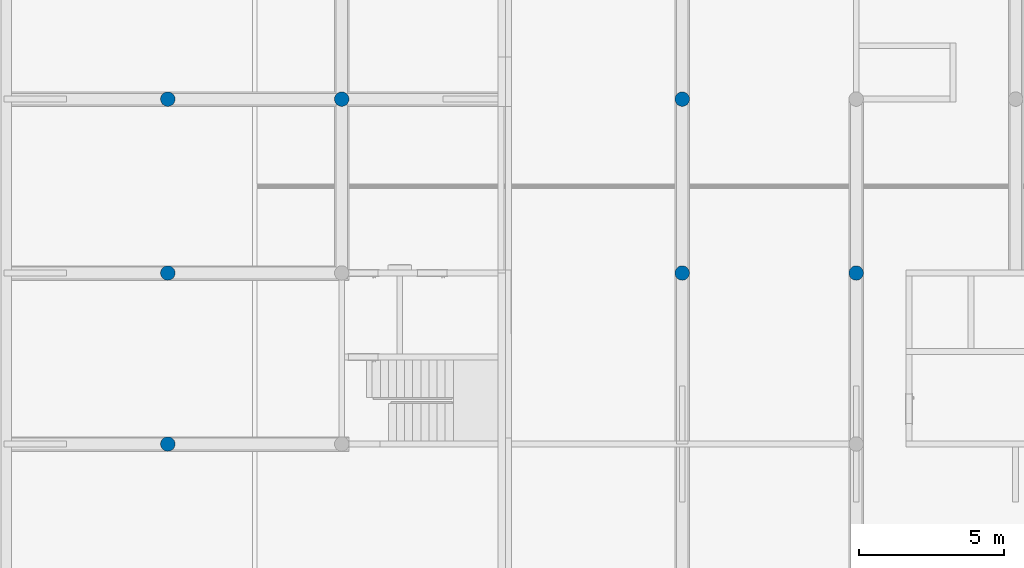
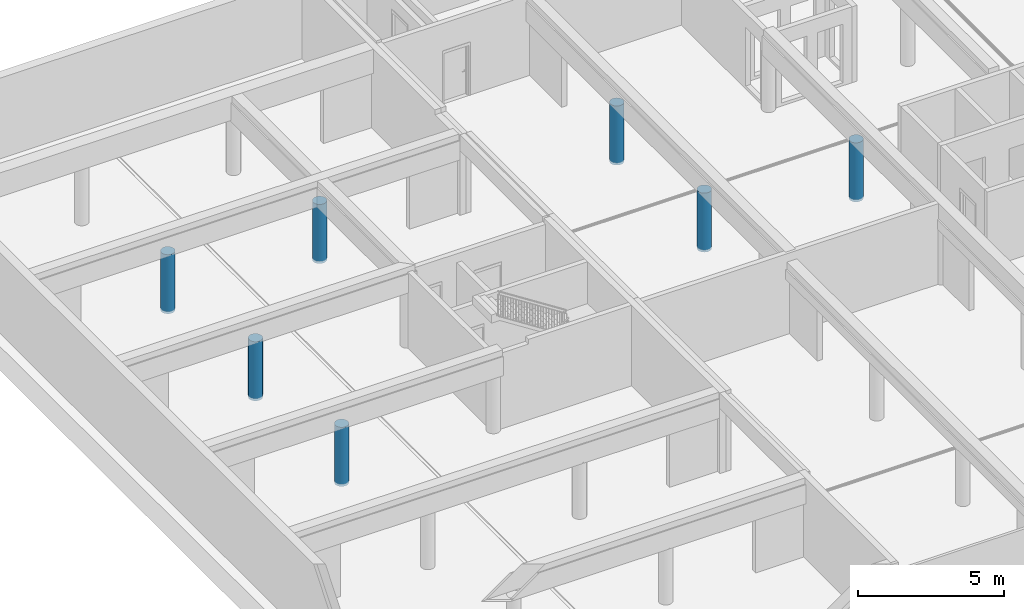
# One storey, part 2 of 25: 7 columns.
"""IFC2X3 building model written with IfcOpenShell, lengths in millimetres."""

from ifc_helpers import new_model, entity, si_unit, converted_unit, derived_unit, money_unit, direction, frame, origin_with_axes, place, context, subcontext, project, spatial, faceted_brep, material, type_object, element, save


model = new_model("IFC2X3")

# Units and contexts
model_context = context("Model", 3, precision=0.01, world=origin_with_axes(), true_north=direction((0.34421633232, 0.938890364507)))
body_context = subcontext(model_context, "Body", "Model", "MODEL_VIEW")
ifc_project = project(units=[si_unit("LENGTHUNIT", "METRE", prefix="MILLI"), si_unit("AREAUNIT", "SQUARE_METRE"), si_unit("VOLUMEUNIT", "CUBIC_METRE"), converted_unit("PLANEANGLEUNIT", "DEGREE", entity("IfcPlaneAngleMeasure", 0.0174532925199), si_unit("PLANEANGLEUNIT", "RADIAN"), dimensions=[0, 0, 0, 0, 0, 0, 0]), si_unit("SOLIDANGLEUNIT", "STERADIAN"), money_unit("USD"), converted_unit("TIMEUNIT", "Year", entity("IfcTimeMeasure", 31556926.0), si_unit("TIMEUNIT", "SECOND"), dimensions=[0, 0, 1, 0, 0, 0, 0]), si_unit("MASSUNIT", "GRAM", prefix="KILO"), si_unit("THERMODYNAMICTEMPERATUREUNIT", "DEGREE_CELSIUS"), si_unit("LUMINOUSINTENSITYUNIT", "LUMEN"), si_unit("ENERGYUNIT", "JOULE", prefix="MEGA"), derived_unit("THERMALCONDUCTANCEUNIT", [(si_unit("POWERUNIT", "WATT"), 1), (si_unit("LENGTHUNIT", "METRE"), -1), (si_unit("THERMODYNAMICTEMPERATUREUNIT", "KELVIN"), -1)]), derived_unit("SPECIFICHEATCAPACITYUNIT", [(si_unit("ENERGYUNIT", "JOULE"), 1), (si_unit("MASSUNIT", "GRAM", prefix="KILO"), -1), (si_unit("THERMODYNAMICTEMPERATUREUNIT", "KELVIN"), -1)]), derived_unit("MASSDENSITYUNIT", [(si_unit("MASSUNIT", "GRAM", prefix="KILO"), 1), (si_unit("VOLUMEUNIT", "CUBIC_METRE"), -1)])], contexts=[model_context])

# Site, building, storey
site_placement = place(None, origin_with_axes())
site = spatial("IfcSite", under=ifc_project, at=site_placement, Name="USTRONIE MORSKIE", CompositionType="ELEMENT")
building_placement = place(site_placement, origin_with_axes())
building = spatial("IfcBuilding", under=site, at=building_placement, Name="Budynek", CompositionType="ELEMENT")
storey_placement = place(building_placement, frame((0.0, 0.0, -3600.0), z_axis=(0.0, 0.0, 1.0), x_axis=(1.0, 0.0, 0.0)))
storey = spatial("IfcBuildingStorey", under=building, at=storey_placement, Name="GARAZ", CompositionType="ELEMENT", Elevation=-3600.0)

# Columns
ifc_material = material(Name="Beton konstrukcyjny 01")
column_type = type_object("IfcColumnType", Name="Beton konstrukcyjny 01 D500", PredefinedType="NOTDEFINED")
column_1_placement = place(storey_placement, frame((373317.920919, 738801.199036, -100.0), z_axis=(0.0, 0.0, 1.0), x_axis=(1.0, 0.0, 0.0)))
element("IfcColumn", 1, at=column_1_placement, inside=storey, type_object=column_type, material=ifc_material, Name="S2", context=body_context, shape_type="Brep", body=[
    faceted_brep([(-250.0, 0.0, 2470.00030619), (-250.0, 0.0, 0.0), (-246.201938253, -43.4120444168, 0.0), (-246.201938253, -43.4120444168, 2470.00030619), (-246.201938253, 43.4120444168, 2470.00030619), (-246.201938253, 43.4120444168, 0.0), (-234.923155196, 85.5050358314, 0.0), (-216.506350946, 125.0, 0.0), (-191.51111078, 160.696902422, 0.0), (-160.696902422, 191.51111078, 0.0), (-125.0, 216.506350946, 0.0), (-85.5050358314, 234.923155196, 0.0), (-43.4120444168, 246.201938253, 0.0), (0.0, 250.0, 0.0), (43.4120444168, 246.201938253, 0.0), (85.5050358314, 234.923155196, 0.0), (125.0, 216.506350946, 0.0), (160.696902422, 191.51111078, 0.0), (191.51111078, 160.696902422, 0.0), (216.506350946, 125.0, 0.0), (234.923155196, 85.5050358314, 0.0), (246.201938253, 43.4120444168, 0.0), (250.0, 0.0, 0.0), (246.201938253, -43.4120444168, 0.0), (234.923155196, -85.5050358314, 0.0), (216.506350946, -125.0, 0.0), (191.51111078, -160.696902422, 0.0), (160.696902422, -191.51111078, 0.0), (125.0, -216.506350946, 0.0), (85.5050358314, -234.923155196, 0.0), (43.4120444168, -246.201938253, 0.0), (0.0, -250.0, 0.0), (-43.4120444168, -246.201938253, 0.0), (-85.5050358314, -234.923155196, 0.0), (-125.0, -216.506350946, 0.0), (-160.696902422, -191.51111078, 0.0), (-191.51111078, -160.696902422, 0.0), (-216.506350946, -125.0, 0.0), (-234.923155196, -85.5050358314, 0.0), (-234.923155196, -85.5050358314, 2470.00030619), (-216.506350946, -125.0, 2470.00030619), (-191.51111078, -160.696902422, 2470.00030619), (-160.696902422, -191.51111078, 2470.00030619), (-125.0, -216.506350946, 2470.00030619), (-85.5050358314, -234.923155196, 2470.00030619), (-43.4120444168, -246.201938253, 2470.00030619), (0.0, -250.0, 2470.00030619), (43.4120444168, -246.201938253, 2470.00030619), (85.5050358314, -234.923155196, 2470.00030619), (125.0, -216.506350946, 2470.00030619), (160.696902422, -191.51111078, 2470.00030619), (191.51111078, -160.696902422, 2470.00030619), (216.506350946, -125.0, 2470.00030619), (234.923155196, -85.5050358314, 2470.00030619), (246.201938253, -43.4120444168, 2470.00030619), (250.0, 0.0, 2470.00030619), (246.201938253, 43.4120444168, 2470.00030619), (234.923155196, 85.5050358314, 2470.00030619), (216.506350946, 125.0, 2470.00030619), (191.51111078, 160.696902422, 2470.00030619), (160.696902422, 191.51111078, 2470.00030619), (125.0, 216.506350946, 2470.00030619), (85.5050358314, 234.923155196, 2470.00030619), (43.4120444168, 246.201938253, 2470.00030619), (0.0, 250.0, 2470.00030619), (-43.4120444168, 246.201938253, 2470.00030619), (-85.5050358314, 234.923155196, 2470.00030619), (-125.0, 216.506350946, 2470.00030619), (-160.696902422, 191.51111078, 2470.00030619), (-191.51111078, 160.696902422, 2470.00030619), (-216.506350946, 125.0, 2470.00030619), (-234.923155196, 85.5050358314, 2470.00030619)], [[[0, 1, 2, 3]], [[4, 5, 1, 0]], [[2, 1, 5, 6, 7, 8, 9, 10, 11, 12, 13, 14, 15, 16, 17, 18, 19, 20, 21, 22, 23, 24, 25, 26, 27, 28, 29, 30, 31, 32, 33, 34, 35, 36, 37, 38]], [[3, 2, 38, 39]], [[4, 0, 3, 39, 40, 41, 42, 43, 44, 45, 46, 47, 48, 49, 50, 51, 52, 53, 54, 55, 56, 57, 58, 59, 60, 61, 62, 63, 64, 65, 66, 67, 68, 69, 70, 71]], [[71, 6, 5, 4]], [[70, 7, 6, 71]], [[69, 8, 7, 70]], [[68, 9, 8, 69]], [[67, 10, 9, 68]], [[66, 11, 10, 67]], [[65, 12, 11, 66]], [[64, 13, 12, 65]], [[63, 14, 13, 64]], [[62, 15, 14, 63]], [[61, 16, 15, 62]], [[60, 17, 16, 61]], [[59, 18, 17, 60]], [[58, 19, 18, 59]], [[57, 20, 19, 58]], [[56, 21, 20, 57]], [[55, 22, 21, 56]], [[54, 23, 22, 55]], [[53, 24, 23, 54]], [[52, 25, 24, 53]], [[51, 26, 25, 52]], [[50, 27, 26, 51]], [[49, 28, 27, 50]], [[48, 29, 28, 49]], [[47, 30, 29, 48]], [[46, 31, 30, 47]], [[45, 32, 31, 46]], [[44, 33, 32, 45]], [[43, 34, 33, 44]], [[42, 35, 34, 43]], [[41, 36, 35, 42]], [[40, 37, 36, 41]], [[39, 38, 37, 40]]]),
])
column_2_placement = place(storey_placement, frame((373315.020243, 732801.199036, -100.0), z_axis=(0.0, 0.0, 1.0), x_axis=(0.0, 1.0, 0.0)))
element("IfcColumn", 2, at=column_2_placement, inside=storey, type_object=column_type, material=ifc_material, Name="S1", context=body_context, shape_type="Brep", body=[
    faceted_brep([(-250.0, 0.0, 2470.00030619), (-250.0, 0.0, 0.0), (-246.201938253, -43.4120444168, 0.0), (-246.201938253, -43.4120444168, 2470.00030619), (-246.201938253, 43.4120444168, 2470.00030619), (-246.201938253, 43.4120444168, 0.0), (-234.923155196, 85.5050358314, 0.0), (-216.506350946, 125.0, 0.0), (-191.51111078, 160.696902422, 0.0), (-160.696902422, 191.51111078, 0.0), (-125.0, 216.506350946, 0.0), (-85.5050358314, 234.923155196, 0.0), (-43.4120444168, 246.201938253, 0.0), (0.0, 250.0, 0.0), (43.4120444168, 246.201938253, 0.0), (85.5050358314, 234.923155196, 0.0), (125.0, 216.506350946, 0.0), (160.696902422, 191.51111078, 0.0), (191.51111078, 160.696902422, 0.0), (216.506350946, 125.0, 0.0), (234.923155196, 85.5050358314, 0.0), (246.201938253, 43.4120444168, 0.0), (250.0, 0.0, 0.0), (246.201938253, -43.4120444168, 0.0), (234.923155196, -85.5050358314, 0.0), (216.506350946, -125.0, 0.0), (191.51111078, -160.696902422, 0.0), (160.696902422, -191.51111078, 0.0), (125.0, -216.506350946, 0.0), (85.5050358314, -234.923155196, 0.0), (43.4120444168, -246.201938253, 0.0), (0.0, -250.0, 0.0), (-43.4120444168, -246.201938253, 0.0), (-85.5050358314, -234.923155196, 0.0), (-125.0, -216.506350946, 0.0), (-160.696902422, -191.51111078, 0.0), (-191.51111078, -160.696902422, 0.0), (-216.506350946, -125.0, 0.0), (-234.923155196, -85.5050358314, 0.0), (-234.923155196, -85.5050358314, 2470.00030619), (-216.506350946, -125.0, 2470.00030619), (-191.51111078, -160.696902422, 2470.00030619), (-160.696902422, -191.51111078, 2470.00030619), (-125.0, -216.506350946, 2470.00030619), (-85.5050358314, -234.923155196, 2470.00030619), (-43.4120444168, -246.201938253, 2470.00030619), (0.0, -250.0, 2470.00030619), (43.4120444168, -246.201938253, 2470.00030619), (85.5050358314, -234.923155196, 2470.00030619), (125.0, -216.506350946, 2470.00030619), (160.696902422, -191.51111078, 2470.00030619), (191.51111078, -160.696902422, 2470.00030619), (216.506350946, -125.0, 2470.00030619), (234.923155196, -85.5050358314, 2470.00030619), (246.201938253, -43.4120444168, 2470.00030619), (250.0, 0.0, 2470.00030619), (246.201938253, 43.4120444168, 2470.00030619), (234.923155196, 85.5050358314, 2470.00030619), (216.506350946, 125.0, 2470.00030619), (191.51111078, 160.696902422, 2470.00030619), (160.696902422, 191.51111078, 2470.00030619), (125.0, 216.506350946, 2470.00030619), (85.5050358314, 234.923155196, 2470.00030619), (43.4120444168, 246.201938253, 2470.00030619), (0.0, 250.0, 2470.00030619), (-43.4120444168, 246.201938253, 2470.00030619), (-85.5050358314, 234.923155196, 2470.00030619), (-125.0, 216.506350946, 2470.00030619), (-160.696902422, 191.51111078, 2470.00030619), (-191.51111078, 160.696902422, 2470.00030619), (-216.506350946, 125.0, 2470.00030619), (-234.923155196, 85.5050358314, 2470.00030619)], [[[0, 1, 2, 3]], [[4, 5, 1, 0]], [[2, 1, 5, 6, 7, 8, 9, 10, 11, 12, 13, 14, 15, 16, 17, 18, 19, 20, 21, 22, 23, 24, 25, 26, 27, 28, 29, 30, 31, 32, 33, 34, 35, 36, 37, 38]], [[3, 2, 38, 39]], [[4, 0, 3, 39, 40, 41, 42, 43, 44, 45, 46, 47, 48, 49, 50, 51, 52, 53, 54, 55, 56, 57, 58, 59, 60, 61, 62, 63, 64, 65, 66, 67, 68, 69, 70, 71]], [[71, 6, 5, 4]], [[70, 7, 6, 71]], [[69, 8, 7, 70]], [[68, 9, 8, 69]], [[67, 10, 9, 68]], [[66, 11, 10, 67]], [[65, 12, 11, 66]], [[64, 13, 12, 65]], [[63, 14, 13, 64]], [[62, 15, 14, 63]], [[61, 16, 15, 62]], [[60, 17, 16, 61]], [[59, 18, 17, 60]], [[58, 19, 18, 59]], [[57, 20, 19, 58]], [[56, 21, 20, 57]], [[55, 22, 21, 56]], [[54, 23, 22, 55]], [[53, 24, 23, 54]], [[52, 25, 24, 53]], [[51, 26, 25, 52]], [[50, 27, 26, 51]], [[49, 28, 27, 50]], [[48, 29, 28, 49]], [[47, 30, 29, 48]], [[46, 31, 30, 47]], [[45, 32, 31, 46]], [[44, 33, 32, 45]], [[43, 34, 33, 44]], [[42, 35, 34, 43]], [[41, 36, 35, 42]], [[40, 37, 36, 41]], [[39, 38, 37, 40]]]),
])
column_3_placement = place(storey_placement, frame((355567.920919, 738801.199036, -100.0), z_axis=(0.0, 0.0, 1.0), x_axis=(1.0, 0.0, 0.0)))
element("IfcColumn", 3, at=column_3_placement, inside=storey, type_object=column_type, material=ifc_material, Name="S1", context=body_context, shape_type="Brep", body=[
    faceted_brep([(-250.0, 0.0, 2470.00030619), (-250.0, 0.0, 0.0), (-246.201938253, -43.4120444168, 0.0), (-246.201938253, -43.4120444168, 2470.00030619), (-246.201938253, 43.4120444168, 2470.00030619), (-246.201938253, 43.4120444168, 0.0), (-234.923155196, 85.5050358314, 0.0), (-216.506350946, 125.0, 0.0), (-191.51111078, 160.696902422, 0.0), (-160.696902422, 191.51111078, 0.0), (-125.0, 216.506350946, 0.0), (-85.5050358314, 234.923155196, 0.0), (-43.4120444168, 246.201938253, 0.0), (0.0, 250.0, 0.0), (43.4120444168, 246.201938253, 0.0), (85.5050358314, 234.923155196, 0.0), (125.0, 216.506350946, 0.0), (160.696902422, 191.51111078, 0.0), (191.51111078, 160.696902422, 0.0), (216.506350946, 125.0, 0.0), (234.923155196, 85.5050358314, 0.0), (246.201938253, 43.4120444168, 0.0), (250.0, 0.0, 0.0), (246.201938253, -43.4120444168, 0.0), (234.923155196, -85.5050358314, 0.0), (216.506350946, -125.0, 0.0), (191.51111078, -160.696902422, 0.0), (160.696902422, -191.51111078, 0.0), (125.0, -216.506350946, 0.0), (85.5050358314, -234.923155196, 0.0), (43.4120444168, -246.201938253, 0.0), (0.0, -250.0, 0.0), (-43.4120444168, -246.201938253, 0.0), (-85.5050358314, -234.923155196, 0.0), (-125.0, -216.506350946, 0.0), (-160.696902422, -191.51111078, 0.0), (-191.51111078, -160.696902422, 0.0), (-216.506350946, -125.0, 0.0), (-234.923155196, -85.5050358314, 0.0), (-234.923155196, -85.5050358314, 2470.00030619), (-216.506350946, -125.0, 2470.00030619), (-191.51111078, -160.696902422, 2470.00030619), (-160.696902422, -191.51111078, 2470.00030619), (-125.0, -216.506350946, 2470.00030619), (-85.5050358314, -234.923155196, 2470.00030619), (-43.4120444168, -246.201938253, 2470.00030619), (0.0, -250.0, 2470.00030619), (43.4120444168, -246.201938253, 2470.00030619), (85.5050358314, -234.923155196, 2470.00030619), (125.0, -216.506350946, 2470.00030619), (160.696902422, -191.51111078, 2470.00030619), (191.51111078, -160.696902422, 2470.00030619), (216.506350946, -125.0, 2470.00030619), (234.923155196, -85.5050358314, 2470.00030619), (246.201938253, -43.4120444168, 2470.00030619), (250.0, 0.0, 2470.00030619), (246.201938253, 43.4120444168, 2470.00030619), (234.923155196, 85.5050358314, 2470.00030619), (216.506350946, 125.0, 2470.00030619), (191.51111078, 160.696902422, 2470.00030619), (160.696902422, 191.51111078, 2470.00030619), (125.0, 216.506350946, 2470.00030619), (85.5050358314, 234.923155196, 2470.00030619), (43.4120444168, 246.201938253, 2470.00030619), (0.0, 250.0, 2470.00030619), (-43.4120444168, 246.201938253, 2470.00030619), (-85.5050358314, 234.923155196, 2470.00030619), (-125.0, 216.506350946, 2470.00030619), (-160.696902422, 191.51111078, 2470.00030619), (-191.51111078, 160.696902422, 2470.00030619), (-216.506350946, 125.0, 2470.00030619), (-234.923155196, 85.5050358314, 2470.00030619)], [[[0, 1, 2, 3]], [[4, 5, 1, 0]], [[2, 1, 5, 6, 7, 8, 9, 10, 11, 12, 13, 14, 15, 16, 17, 18, 19, 20, 21, 22, 23, 24, 25, 26, 27, 28, 29, 30, 31, 32, 33, 34, 35, 36, 37, 38]], [[3, 2, 38, 39]], [[4, 0, 3, 39, 40, 41, 42, 43, 44, 45, 46, 47, 48, 49, 50, 51, 52, 53, 54, 55, 56, 57, 58, 59, 60, 61, 62, 63, 64, 65, 66, 67, 68, 69, 70, 71]], [[71, 6, 5, 4]], [[70, 7, 6, 71]], [[69, 8, 7, 70]], [[68, 9, 8, 69]], [[67, 10, 9, 68]], [[66, 11, 10, 67]], [[65, 12, 11, 66]], [[64, 13, 12, 65]], [[63, 14, 13, 64]], [[62, 15, 14, 63]], [[61, 16, 15, 62]], [[60, 17, 16, 61]], [[59, 18, 17, 60]], [[58, 19, 18, 59]], [[57, 20, 19, 58]], [[56, 21, 20, 57]], [[55, 22, 21, 56]], [[54, 23, 22, 55]], [[53, 24, 23, 54]], [[52, 25, 24, 53]], [[51, 26, 25, 52]], [[50, 27, 26, 51]], [[49, 28, 27, 50]], [[48, 29, 28, 49]], [[47, 30, 29, 48]], [[46, 31, 30, 47]], [[45, 32, 31, 46]], [[44, 33, 32, 45]], [[43, 34, 33, 44]], [[42, 35, 34, 43]], [[41, 36, 35, 42]], [[40, 37, 36, 41]], [[39, 38, 37, 40]]]),
])
column_4_placement = place(storey_placement, frame((361567.920919, 738801.199036, -100.0), z_axis=(0.0, 0.0, 1.0), x_axis=(1.0, 0.0, 0.0)))
element("IfcColumn", 4, at=column_4_placement, inside=storey, type_object=column_type, material=ifc_material, Name="S1", context=body_context, shape_type="Brep", body=[
    faceted_brep([(246.201938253, 43.4120444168, 2470.00030619), (246.201938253, 43.4120444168, 0.0), (234.923155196, 85.5050358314, 0.0), (234.923155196, 85.5050358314, 2470.00030619), (250.0, 0.0, 2470.00030619), (250.0, 0.0, 0.0), (246.201938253, -43.4120444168, 0.0), (234.923155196, -85.5050358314, 0.0), (216.506350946, -125.0, 0.0), (191.51111078, -160.696902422, 0.0), (160.696902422, -191.51111078, 0.0), (125.0, -216.506350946, 0.0), (85.5050358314, -234.923155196, 0.0), (43.4120444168, -246.201938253, 0.0), (0.0, -250.0, 0.0), (-43.4120444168, -246.201938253, 0.0), (-85.5050358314, -234.923155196, 0.0), (-125.0, -216.506350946, 0.0), (-160.696902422, -191.51111078, 0.0), (-191.51111078, -160.696902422, 0.0), (-216.506350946, -125.0, 0.0), (-234.923155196, -85.5050358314, 0.0), (-246.201938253, -43.4120444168, 0.0), (-250.0, 0.0, 0.0), (-246.201938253, 43.4120444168, 0.0), (-234.923155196, 85.5050358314, 0.0), (-216.506350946, 125.0, 0.0), (-191.51111078, 160.696902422, 0.0), (-160.696902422, 191.51111078, 0.0), (-125.0, 216.506350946, 0.0), (-85.5050358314, 234.923155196, 0.0), (-43.4120444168, 246.201938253, 0.0), (0.0, 250.0, 0.0), (43.4120444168, 246.201938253, 0.0), (85.5050358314, 234.923155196, 0.0), (125.0, 216.506350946, 0.0), (160.696902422, 191.51111078, 0.0), (191.51111078, 160.696902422, 0.0), (216.506350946, 125.0, 0.0), (216.506350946, 125.0, 2470.00030619), (191.51111078, 160.696902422, 2470.00030619), (160.696902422, 191.51111078, 2470.00030619), (125.0, 216.506350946, 2470.00030619), (85.5050358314, 234.923155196, 2470.00030619), (43.4120444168, 246.201938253, 2470.00030619), (0.0, 250.0, 2470.00030619), (-43.4120444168, 246.201938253, 2470.00030619), (-85.5050358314, 234.923155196, 2470.00030619), (-125.0, 216.506350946, 2470.00030619), (-160.696902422, 191.51111078, 2470.00030619), (-191.51111078, 160.696902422, 2470.00030619), (-216.506350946, 125.0, 2470.00030619), (-234.923155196, 85.5050358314, 2470.00030619), (-246.201938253, 43.4120444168, 2470.00030619), (-250.0, 0.0, 2470.00030619), (-246.201938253, -43.4120444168, 2470.00030619), (-234.923155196, -85.5050358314, 2470.00030619), (-216.506350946, -125.0, 2470.00030619), (-191.51111078, -160.696902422, 2470.00030619), (-160.696902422, -191.51111078, 2470.00030619), (-125.0, -216.506350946, 2470.00030619), (-85.5050358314, -234.923155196, 2470.00030619), (-43.4120444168, -246.201938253, 2470.00030619), (0.0, -250.0, 2470.00030619), (43.4120444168, -246.201938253, 2470.00030619), (85.5050358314, -234.923155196, 2470.00030619), (125.0, -216.506350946, 2470.00030619), (160.696902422, -191.51111078, 2470.00030619), (191.51111078, -160.696902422, 2470.00030619), (216.506350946, -125.0, 2470.00030619), (234.923155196, -85.5050358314, 2470.00030619), (246.201938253, -43.4120444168, 2470.00030619)], [[[0, 1, 2, 3]], [[4, 5, 1, 0]], [[2, 1, 5, 6, 7, 8, 9, 10, 11, 12, 13, 14, 15, 16, 17, 18, 19, 20, 21, 22, 23, 24, 25, 26, 27, 28, 29, 30, 31, 32, 33, 34, 35, 36, 37, 38]], [[3, 2, 38, 39]], [[4, 0, 3, 39, 40, 41, 42, 43, 44, 45, 46, 47, 48, 49, 50, 51, 52, 53, 54, 55, 56, 57, 58, 59, 60, 61, 62, 63, 64, 65, 66, 67, 68, 69, 70, 71]], [[71, 6, 5, 4]], [[70, 7, 6, 71]], [[69, 8, 7, 70]], [[68, 9, 8, 69]], [[67, 10, 9, 68]], [[66, 11, 10, 67]], [[65, 12, 11, 66]], [[64, 13, 12, 65]], [[63, 14, 13, 64]], [[62, 15, 14, 63]], [[61, 16, 15, 62]], [[60, 17, 16, 61]], [[59, 18, 17, 60]], [[58, 19, 18, 59]], [[57, 20, 19, 58]], [[56, 21, 20, 57]], [[55, 22, 21, 56]], [[54, 23, 22, 55]], [[53, 24, 23, 54]], [[52, 25, 24, 53]], [[51, 26, 25, 52]], [[50, 27, 26, 51]], [[49, 28, 27, 50]], [[48, 29, 28, 49]], [[47, 30, 29, 48]], [[46, 31, 30, 47]], [[45, 32, 31, 46]], [[44, 33, 32, 45]], [[43, 34, 33, 44]], [[42, 35, 34, 43]], [[41, 36, 35, 42]], [[40, 37, 36, 41]], [[39, 38, 37, 40]]]),
])
column_5_placement = place(storey_placement, frame((355567.920919, 732801.199036, -100.0), z_axis=(0.0, 0.0, 1.0), x_axis=(1.0, 0.0, 0.0)))
element("IfcColumn", 5, at=column_5_placement, inside=storey, type_object=column_type, material=ifc_material, Name="S1", context=body_context, shape_type="Brep", body=[
    faceted_brep([(-250.0, 0.0, 2470.00030619), (-250.0, 0.0, 0.0), (-246.201938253, -43.4120444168, 0.0), (-246.201938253, -43.4120444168, 2470.00030619), (-246.201938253, 43.4120444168, 2470.00030619), (-246.201938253, 43.4120444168, 0.0), (-234.923155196, 85.5050358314, 0.0), (-216.506350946, 125.0, 0.0), (-191.51111078, 160.696902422, 0.0), (-160.696902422, 191.51111078, 0.0), (-125.0, 216.506350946, 0.0), (-85.5050358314, 234.923155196, 0.0), (-43.4120444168, 246.201938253, 0.0), (0.0, 250.0, 0.0), (43.4120444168, 246.201938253, 0.0), (85.5050358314, 234.923155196, 0.0), (125.0, 216.506350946, 0.0), (160.696902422, 191.51111078, 0.0), (191.51111078, 160.696902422, 0.0), (216.506350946, 125.0, 0.0), (234.923155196, 85.5050358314, 0.0), (246.201938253, 43.4120444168, 0.0), (250.0, 0.0, 0.0), (246.201938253, -43.4120444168, 0.0), (234.923155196, -85.5050358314, 0.0), (216.506350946, -125.0, 0.0), (191.51111078, -160.696902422, 0.0), (160.696902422, -191.51111078, 0.0), (125.0, -216.506350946, 0.0), (85.5050358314, -234.923155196, 0.0), (43.4120444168, -246.201938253, 0.0), (0.0, -250.0, 0.0), (-43.4120444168, -246.201938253, 0.0), (-85.5050358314, -234.923155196, 0.0), (-125.0, -216.506350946, 0.0), (-160.696902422, -191.51111078, 0.0), (-191.51111078, -160.696902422, 0.0), (-216.506350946, -125.0, 0.0), (-234.923155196, -85.5050358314, 0.0), (-234.923155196, -85.5050358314, 2470.00030619), (-216.506350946, -125.0, 2470.00030619), (-191.51111078, -160.696902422, 2470.00030619), (-160.696902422, -191.51111078, 2470.00030619), (-125.0, -216.506350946, 2470.00030619), (-85.5050358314, -234.923155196, 2470.00030619), (-43.4120444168, -246.201938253, 2470.00030619), (0.0, -250.0, 2470.00030619), (43.4120444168, -246.201938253, 2470.00030619), (85.5050358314, -234.923155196, 2470.00030619), (125.0, -216.506350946, 2470.00030619), (160.696902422, -191.51111078, 2470.00030619), (191.51111078, -160.696902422, 2470.00030619), (216.506350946, -125.0, 2470.00030619), (234.923155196, -85.5050358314, 2470.00030619), (246.201938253, -43.4120444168, 2470.00030619), (250.0, 0.0, 2470.00030619), (246.201938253, 43.4120444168, 2470.00030619), (234.923155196, 85.5050358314, 2470.00030619), (216.506350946, 125.0, 2470.00030619), (191.51111078, 160.696902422, 2470.00030619), (160.696902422, 191.51111078, 2470.00030619), (125.0, 216.506350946, 2470.00030619), (85.5050358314, 234.923155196, 2470.00030619), (43.4120444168, 246.201938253, 2470.00030619), (0.0, 250.0, 2470.00030619), (-43.4120444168, 246.201938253, 2470.00030619), (-85.5050358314, 234.923155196, 2470.00030619), (-125.0, 216.506350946, 2470.00030619), (-160.696902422, 191.51111078, 2470.00030619), (-191.51111078, 160.696902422, 2470.00030619), (-216.506350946, 125.0, 2470.00030619), (-234.923155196, 85.5050358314, 2470.00030619)], [[[0, 1, 2, 3]], [[4, 5, 1, 0]], [[2, 1, 5, 6, 7, 8, 9, 10, 11, 12, 13, 14, 15, 16, 17, 18, 19, 20, 21, 22, 23, 24, 25, 26, 27, 28, 29, 30, 31, 32, 33, 34, 35, 36, 37, 38]], [[3, 2, 38, 39]], [[4, 0, 3, 39, 40, 41, 42, 43, 44, 45, 46, 47, 48, 49, 50, 51, 52, 53, 54, 55, 56, 57, 58, 59, 60, 61, 62, 63, 64, 65, 66, 67, 68, 69, 70, 71]], [[71, 6, 5, 4]], [[70, 7, 6, 71]], [[69, 8, 7, 70]], [[68, 9, 8, 69]], [[67, 10, 9, 68]], [[66, 11, 10, 67]], [[65, 12, 11, 66]], [[64, 13, 12, 65]], [[63, 14, 13, 64]], [[62, 15, 14, 63]], [[61, 16, 15, 62]], [[60, 17, 16, 61]], [[59, 18, 17, 60]], [[58, 19, 18, 59]], [[57, 20, 19, 58]], [[56, 21, 20, 57]], [[55, 22, 21, 56]], [[54, 23, 22, 55]], [[53, 24, 23, 54]], [[52, 25, 24, 53]], [[51, 26, 25, 52]], [[50, 27, 26, 51]], [[49, 28, 27, 50]], [[48, 29, 28, 49]], [[47, 30, 29, 48]], [[46, 31, 30, 47]], [[45, 32, 31, 46]], [[44, 33, 32, 45]], [[43, 34, 33, 44]], [[42, 35, 34, 43]], [[41, 36, 35, 42]], [[40, 37, 36, 41]], [[39, 38, 37, 40]]]),
])
column_6_placement = place(storey_placement, frame((379317.920919, 732801.199036, -100.0), z_axis=(0.0, 0.0, 1.0), x_axis=(0.0, 1.0, 0.0)))
element("IfcColumn", 6, at=column_6_placement, inside=storey, type_object=column_type, material=ifc_material, Name="S1", context=body_context, shape_type="Brep", body=[
    faceted_brep([(-250.0, 0.0, 2470.00030619), (-250.0, 0.0, 0.0), (-246.201938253, -43.4120444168, 0.0), (-246.201938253, -43.4120444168, 2470.00030619), (-246.201938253, 43.4120444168, 2470.00030619), (-246.201938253, 43.4120444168, 0.0), (-234.923155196, 85.5050358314, 0.0), (-216.506350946, 125.0, 0.0), (-191.51111078, 160.696902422, 0.0), (-160.696902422, 191.51111078, 0.0), (-125.0, 216.506350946, 0.0), (-85.5050358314, 234.923155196, 0.0), (-43.4120444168, 246.201938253, 0.0), (0.0, 250.0, 0.0), (43.4120444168, 246.201938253, 0.0), (85.5050358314, 234.923155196, 0.0), (125.0, 216.506350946, 0.0), (160.696902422, 191.51111078, 0.0), (191.51111078, 160.696902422, 0.0), (216.506350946, 125.0, 0.0), (234.923155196, 85.5050358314, 0.0), (246.201938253, 43.4120444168, 0.0), (250.0, 0.0, 0.0), (246.201938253, -43.4120444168, 0.0), (234.923155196, -85.5050358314, 0.0), (216.506350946, -125.0, 0.0), (191.51111078, -160.696902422, 0.0), (160.696902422, -191.51111078, 0.0), (125.0, -216.506350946, 0.0), (85.5050358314, -234.923155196, 0.0), (43.4120444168, -246.201938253, 0.0), (0.0, -250.0, 0.0), (-43.4120444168, -246.201938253, 0.0), (-85.5050358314, -234.923155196, 0.0), (-125.0, -216.506350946, 0.0), (-160.696902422, -191.51111078, 0.0), (-191.51111078, -160.696902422, 0.0), (-216.506350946, -125.0, 0.0), (-234.923155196, -85.5050358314, 0.0), (-234.923155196, -85.5050358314, 2470.00030619), (-216.506350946, -125.0, 2470.00030619), (-191.51111078, -160.696902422, 2470.00030619), (-160.696902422, -191.51111078, 2470.00030619), (-125.0, -216.506350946, 2470.00030619), (-85.5050358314, -234.923155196, 2470.00030619), (-43.4120444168, -246.201938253, 2470.00030619), (0.0, -250.0, 2470.00030619), (43.4120444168, -246.201938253, 2470.00030619), (85.5050358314, -234.923155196, 2470.00030619), (125.0, -216.506350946, 2470.00030619), (160.696902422, -191.51111078, 2470.00030619), (191.51111078, -160.696902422, 2470.00030619), (216.506350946, -125.0, 2470.00030619), (234.923155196, -85.5050358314, 2470.00030619), (246.201938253, -43.4120444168, 2470.00030619), (250.0, 0.0, 2470.00030619), (246.201938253, 43.4120444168, 2470.00030619), (234.923155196, 85.5050358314, 2470.00030619), (216.506350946, 125.0, 2470.00030619), (191.51111078, 160.696902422, 2470.00030619), (160.696902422, 191.51111078, 2470.00030619), (125.0, 216.506350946, 2470.00030619), (85.5050358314, 234.923155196, 2470.00030619), (43.4120444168, 246.201938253, 2470.00030619), (0.0, 250.0, 2470.00030619), (-43.4120444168, 246.201938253, 2470.00030619), (-85.5050358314, 234.923155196, 2470.00030619), (-125.0, 216.506350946, 2470.00030619), (-160.696902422, 191.51111078, 2470.00030619), (-191.51111078, 160.696902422, 2470.00030619), (-216.506350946, 125.0, 2470.00030619), (-234.923155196, 85.5050358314, 2470.00030619)], [[[0, 1, 2, 3]], [[4, 5, 1, 0]], [[2, 1, 5, 6, 7, 8, 9, 10, 11, 12, 13, 14, 15, 16, 17, 18, 19, 20, 21, 22, 23, 24, 25, 26, 27, 28, 29, 30, 31, 32, 33, 34, 35, 36, 37, 38]], [[3, 2, 38, 39]], [[4, 0, 3, 39, 40, 41, 42, 43, 44, 45, 46, 47, 48, 49, 50, 51, 52, 53, 54, 55, 56, 57, 58, 59, 60, 61, 62, 63, 64, 65, 66, 67, 68, 69, 70, 71]], [[71, 6, 5, 4]], [[70, 7, 6, 71]], [[69, 8, 7, 70]], [[68, 9, 8, 69]], [[67, 10, 9, 68]], [[66, 11, 10, 67]], [[65, 12, 11, 66]], [[64, 13, 12, 65]], [[63, 14, 13, 64]], [[62, 15, 14, 63]], [[61, 16, 15, 62]], [[60, 17, 16, 61]], [[59, 18, 17, 60]], [[58, 19, 18, 59]], [[57, 20, 19, 58]], [[56, 21, 20, 57]], [[55, 22, 21, 56]], [[54, 23, 22, 55]], [[53, 24, 23, 54]], [[52, 25, 24, 53]], [[51, 26, 25, 52]], [[50, 27, 26, 51]], [[49, 28, 27, 50]], [[48, 29, 28, 49]], [[47, 30, 29, 48]], [[46, 31, 30, 47]], [[45, 32, 31, 46]], [[44, 33, 32, 45]], [[43, 34, 33, 44]], [[42, 35, 34, 43]], [[41, 36, 35, 42]], [[40, 37, 36, 41]], [[39, 38, 37, 40]]]),
])
column_7_placement = place(storey_placement, frame((355567.920919, 726901.199036, -100.0), z_axis=(0.0, 0.0, 1.0), x_axis=(1.0, 0.0, 0.0)))
element("IfcColumn", 7, at=column_7_placement, inside=storey, type_object=column_type, material=ifc_material, Name="S1", context=body_context, shape_type="Brep", body=[
    faceted_brep([(-250.0, 0.0, 2470.00030619), (-250.0, 0.0, 0.0), (-246.201938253, -43.4120444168, 0.0), (-246.201938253, -43.4120444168, 2470.00030619), (-246.201938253, 43.4120444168, 2470.00030619), (-246.201938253, 43.4120444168, 0.0), (-234.923155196, 85.5050358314, 0.0), (-216.506350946, 125.0, 0.0), (-191.51111078, 160.696902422, 0.0), (-160.696902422, 191.51111078, 0.0), (-125.0, 216.506350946, 0.0), (-85.5050358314, 234.923155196, 0.0), (-43.4120444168, 246.201938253, 0.0), (0.0, 250.0, 0.0), (43.4120444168, 246.201938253, 0.0), (85.5050358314, 234.923155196, 0.0), (125.0, 216.506350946, 0.0), (160.696902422, 191.51111078, 0.0), (191.51111078, 160.696902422, 0.0), (216.506350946, 125.0, 0.0), (234.923155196, 85.5050358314, 0.0), (246.201938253, 43.4120444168, 0.0), (250.0, 0.0, 0.0), (246.201938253, -43.4120444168, 0.0), (234.923155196, -85.5050358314, 0.0), (216.506350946, -125.0, 0.0), (191.51111078, -160.696902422, 0.0), (160.696902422, -191.51111078, 0.0), (125.0, -216.506350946, 0.0), (85.5050358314, -234.923155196, 0.0), (43.4120444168, -246.201938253, 0.0), (0.0, -250.0, 0.0), (-43.4120444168, -246.201938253, 0.0), (-85.5050358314, -234.923155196, 0.0), (-125.0, -216.506350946, 0.0), (-160.696902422, -191.51111078, 0.0), (-191.51111078, -160.696902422, 0.0), (-216.506350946, -125.0, 0.0), (-234.923155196, -85.5050358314, 0.0), (-234.923155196, -85.5050358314, 2470.00030619), (-216.506350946, -125.0, 2470.00030619), (-191.51111078, -160.696902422, 2470.00030619), (-160.696902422, -191.51111078, 2470.00030619), (-125.0, -216.506350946, 2470.00030619), (-85.5050358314, -234.923155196, 2470.00030619), (-43.4120444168, -246.201938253, 2470.00030619), (0.0, -250.0, 2470.00030619), (43.4120444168, -246.201938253, 2470.00030619), (85.5050358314, -234.923155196, 2470.00030619), (125.0, -216.506350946, 2470.00030619), (160.696902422, -191.51111078, 2470.00030619), (191.51111078, -160.696902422, 2470.00030619), (216.506350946, -125.0, 2470.00030619), (234.923155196, -85.5050358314, 2470.00030619), (246.201938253, -43.4120444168, 2470.00030619), (250.0, 0.0, 2470.00030619), (246.201938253, 43.4120444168, 2470.00030619), (234.923155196, 85.5050358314, 2470.00030619), (216.506350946, 125.0, 2470.00030619), (191.51111078, 160.696902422, 2470.00030619), (160.696902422, 191.51111078, 2470.00030619), (125.0, 216.506350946, 2470.00030619), (85.5050358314, 234.923155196, 2470.00030619), (43.4120444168, 246.201938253, 2470.00030619), (0.0, 250.0, 2470.00030619), (-43.4120444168, 246.201938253, 2470.00030619), (-85.5050358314, 234.923155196, 2470.00030619), (-125.0, 216.506350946, 2470.00030619), (-160.696902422, 191.51111078, 2470.00030619), (-191.51111078, 160.696902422, 2470.00030619), (-216.506350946, 125.0, 2470.00030619), (-234.923155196, 85.5050358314, 2470.00030619)], [[[0, 1, 2, 3]], [[4, 5, 1, 0]], [[2, 1, 5, 6, 7, 8, 9, 10, 11, 12, 13, 14, 15, 16, 17, 18, 19, 20, 21, 22, 23, 24, 25, 26, 27, 28, 29, 30, 31, 32, 33, 34, 35, 36, 37, 38]], [[3, 2, 38, 39]], [[4, 0, 3, 39, 40, 41, 42, 43, 44, 45, 46, 47, 48, 49, 50, 51, 52, 53, 54, 55, 56, 57, 58, 59, 60, 61, 62, 63, 64, 65, 66, 67, 68, 69, 70, 71]], [[71, 6, 5, 4]], [[70, 7, 6, 71]], [[69, 8, 7, 70]], [[68, 9, 8, 69]], [[67, 10, 9, 68]], [[66, 11, 10, 67]], [[65, 12, 11, 66]], [[64, 13, 12, 65]], [[63, 14, 13, 64]], [[62, 15, 14, 63]], [[61, 16, 15, 62]], [[60, 17, 16, 61]], [[59, 18, 17, 60]], [[58, 19, 18, 59]], [[57, 20, 19, 58]], [[56, 21, 20, 57]], [[55, 22, 21, 56]], [[54, 23, 22, 55]], [[53, 24, 23, 54]], [[52, 25, 24, 53]], [[51, 26, 25, 52]], [[50, 27, 26, 51]], [[49, 28, 27, 50]], [[48, 29, 28, 49]], [[47, 30, 29, 48]], [[46, 31, 30, 47]], [[45, 32, 31, 46]], [[44, 33, 32, 45]], [[43, 34, 33, 44]], [[42, 35, 34, 43]], [[41, 36, 35, 42]], [[40, 37, 36, 41]], [[39, 38, 37, 40]]]),
])

save(model, "model.ifc")
